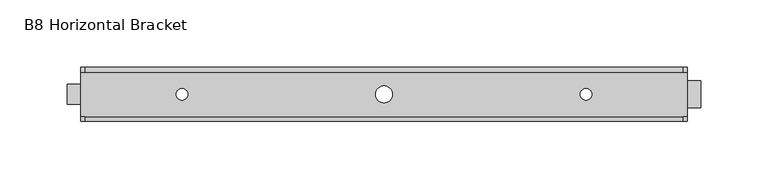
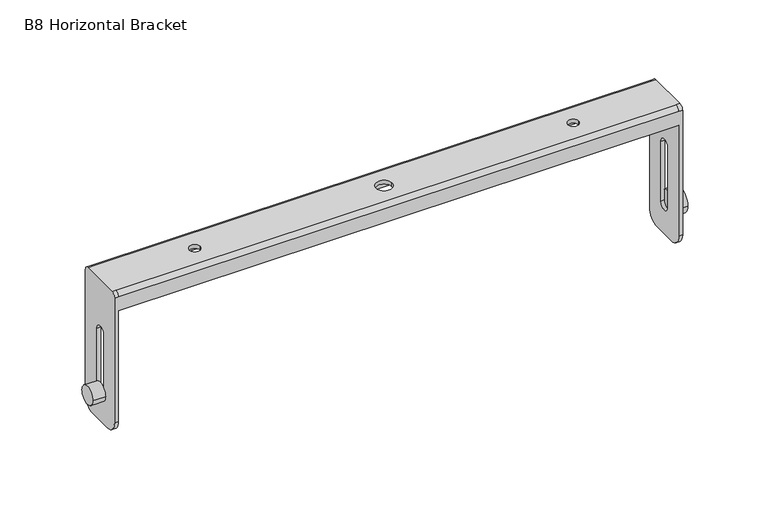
"""IFC4 building model written with IfcOpenShell, lengths in millimetres: proxy geometry, d&b B8 Horizontal Bracket : B8 Horizontal Bracket."""

from ifc_helpers import new_model, si_unit, point, frame, frame_2d, origin, place, context, project, spatial, polyline, circle_curve, trimmed, segment, composite_curve, outline, extrude, source, transform, mapped, element, save
from ifc_brep_helpers import plane_surface, cylinder_surface, revolved_surface, advanced_brep


def b8_horizontal_bracket_c61ec636(model_context):
    return source(origin(), model_context, "Body", "SolidModel", [
        extrude(outline(composite_curve([segment(trimmed(circle_curve(frame_2d((58.7663484, 64.6631951)), 7.5), [point((51.2663484, 64.6631951))], [point((66.2663484, 64.6631951))], False, "CARTESIAN"), True, "CONTINUOUS"), segment(trimmed(circle_curve(frame_2d((58.7663484, 64.6631951)), 7.5), [point((66.2663484, 64.6631951))], [point((51.2663484, 64.6631951))], False, "CARTESIAN"), True, "CONTINUOUS")], self_intersect=False)), frame((-235.0, 0.0, 0.0), z_axis=(1.0, 0.0, 0.0), x_axis=(0.0, 1.0, 0.0)), (0.0, 0.0, 1.0), 10.0),
        extrude(outline(composite_curve([segment(trimmed(circle_curve(frame_2d((58.7663484, 64.6631951)), 10.0), [point((48.7663484, 64.6631951))], [point((68.7663484, 64.6631951))], False, "CARTESIAN"), True, "CONTINUOUS"), segment(trimmed(circle_curve(frame_2d((58.7663484, 64.6631951)), 10.0), [point((68.7663484, 64.6631951))], [point((48.7663484, 64.6631951))], False, "CARTESIAN"), True, "CONTINUOUS")], self_intersect=False)), frame((225.0, 0.0, 0.0), z_axis=(1.0, 0.0, 0.0), x_axis=(0.0, 1.0, 0.0)), (0.0, 0.0, 1.0), 10.0),
        advanced_brep(
        [(-222.0, 38.8007925, 50.0631951), (-222.0, 48.8007925, 40.0631951), (-222.0, 68.8007925, 40.0631951), (-222.0, 78.8007925, 50.0631951), (-222.0, 78.8007925, 143.0631951), (-222.0, 75.8007925, 143.0631951), (-222.0, 75.8007925, 155.0631951), (-222.0, 41.8007925, 155.0631951), (-222.0, 41.8007925, 143.0631951), (-222.0, 38.8007925, 143.0631951), (-222.0, 63.3007925, 64.6631951), (-222.0, 54.3007925, 63.8757971), (-222.0, 54.3007925, 113.8757971), (-222.0, 63.3007925, 114.6631951), (-225.0, 78.8007925, 154.5631951), (-225.0, 78.8007925, 50.0631951), (-225.0, 68.8007925, 40.0631951), (-225.0, 48.8007925, 40.0631951), (-225.0, 38.8007925, 50.0631951), (-225.0, 38.8007925, 154.5631951), (-225.0, 42.3007925, 158.0631951), (-225.0, 75.3007925, 158.0631951), (-225.0, 63.3007925, 64.6631951), (-225.0, 63.3007925, 114.6631951), (-225.0, 54.3007925, 113.8757971), (-225.0, 54.3007925, 63.8757971), (-222.0, 75.3007925, 158.0631951), (-222.0, 78.8007925, 154.5631951), (-222.0, 38.8007925, 154.5631951), (-222.0, 42.3007925, 158.0631951), (225.0, 78.8007925, 154.5631951), (225.0, 75.3007925, 158.0631951), (225.0, 42.3007925, 158.0631951), (225.0, 38.8007925, 154.5631951), (225.0, 38.8007925, 50.0631951), (225.0, 48.8007925, 40.0631951), (225.0, 68.8007925, 40.0631951), (225.0, 78.8007925, 50.0631951), (225.0, 63.3007925, 64.6631951), (225.0, 54.3007925, 63.8757971), (225.0, 54.3007925, 113.8757971), (225.0, 63.3007925, 114.6631951), (222.0, 78.8007925, 50.0631951), (222.0, 68.8007925, 40.0631951), (222.0, 48.8007925, 40.0631951), (222.0, 38.8007925, 50.0631951), (222.0, 38.8007925, 143.0631951), (222.0, 41.8007925, 143.0631951), (222.0, 41.8007925, 155.0631951), (222.0, 75.8007925, 155.0631951), (222.0, 75.8007925, 143.0631951), (222.0, 78.8007925, 143.0631951), (222.0, 63.3007925, 64.6631951), (222.0, 63.3007925, 114.6631951), (222.0, 54.3007925, 113.8757971), (222.0, 54.3007925, 63.8757971), (222.0, 78.8007925, 154.5631951), (222.0, 75.3007925, 158.0631951), (222.0, 42.3007925, 158.0631951), (222.0, 38.8007925, 154.5631951), (-6.2226427, 58.8007925, 158.0631951), (6.2226427, 58.8007925, 158.0631951), (145.7334614, 58.8007925, 158.0631951), (154.2334614, 58.8007925, 158.0631951), (-154.2334614, 58.8007925, 158.0631951), (-145.7334614, 58.8007925, 158.0631951), (-6.2226427, 58.8007925, 155.0631951), (6.2226427, 58.8007925, 155.0631951), (145.7334614, 58.8007925, 155.0631951), (154.2334614, 58.8007925, 155.0631951), (-154.2334614, 58.8007925, 155.0631951), (-145.7334614, 58.8007925, 155.0631951)],
        [
            (0, 1, circle_curve(frame((-222.0, 48.8007925, 50.0631951), z_axis=(1.0, 0.0, 0.0), x_axis=(0.0, 1.0, 0.0)), 10.0)),
            (1, 2),
            (2, 3, circle_curve(frame((-222.0, 68.8007925, 50.0631951), z_axis=(1.0, 0.0, 0.0), x_axis=(0.0, 1.0, 0.0)), 10.0)),
            (3, 4),
            (4, 5),
            (5, 6),
            (6, 7),
            (7, 8),
            (8, 9),
            (9, 0),
            (10, 11, circle_curve(frame((-222.0, 58.7663484, 64.6631951), z_axis=(-1.0, 0.0, 0.0), x_axis=(0.0, 1.0, 0.0)), 4.5344442)),
            (11, 12),
            (12, 13, circle_curve(frame((-222.0, 58.7663484, 114.6631951), z_axis=(-1.0, 0.0, 0.0), x_axis=(0.0, 1.0, 0.0)), 4.5344442)),
            (13, 10),
            (14, 15),
            (15, 16, circle_curve(frame((-225.0, 68.8007925, 50.0631951), z_axis=(-1.0, 0.0, 0.0), x_axis=(0.0, 1.0, 0.0)), 10.0)),
            (16, 17),
            (17, 18, circle_curve(frame((-225.0, 48.8007925, 50.0631951), z_axis=(-1.0, 0.0, 0.0), x_axis=(0.0, 1.0, 0.0)), 10.0)),
            (18, 19),
            (19, 20, circle_curve(frame((-225.0, 42.3007925, 154.5631951), z_axis=(-1.0, 0.0, 0.0), x_axis=(0.0, 1.0, 0.0)), 3.5)),
            (20, 21),
            (21, 14, circle_curve(frame((-225.0, 75.3007925, 154.5631951), z_axis=(-1.0, 0.0, 0.0), x_axis=(0.0, 1.0, 0.0)), 3.5)),
            (22, 23),
            (23, 24, circle_curve(frame((-225.0, 58.7663484, 114.6631951), z_axis=(1.0, 0.0, 0.0), x_axis=(0.0, 1.0, 0.0)), 4.5344442)),
            (24, 25),
            (25, 22, circle_curve(frame((-225.0, 58.7663484, 64.6631951), z_axis=(1.0, 0.0, 0.0), x_axis=(0.0, 1.0, 0.0)), 4.5344442)),
            (21, 26),
            (26, 27, circle_curve(frame((-222.0, 75.3007925, 154.5631951), z_axis=(-1.0, 0.0, 0.0), x_axis=(0.0, 1.0, 0.0)), 3.5)),
            (27, 14),
            (19, 28),
            (28, 29, circle_curve(frame((-222.0, 42.3007925, 154.5631951), z_axis=(-1.0, 0.0, 0.0), x_axis=(0.0, 1.0, 0.0)), 3.5)),
            (29, 20),
            (0, 18),
            (17, 1),
            (16, 2),
            (15, 3),
            (10, 22),
            (25, 11),
            (24, 12),
            (23, 13),
            (30, 31, circle_curve(frame((225.0, 75.3007925, 154.5631951), z_axis=(1.0, 0.0, 0.0), x_axis=(0.0, 1.0, 0.0)), 3.5)),
            (31, 32),
            (32, 33, circle_curve(frame((225.0, 42.3007925, 154.5631951), z_axis=(1.0, 0.0, 0.0), x_axis=(0.0, 1.0, 0.0)), 3.5)),
            (33, 34),
            (34, 35, circle_curve(frame((225.0, 48.8007925, 50.0631951), z_axis=(1.0, 0.0, 0.0), x_axis=(0.0, 1.0, 0.0)), 10.0)),
            (35, 36),
            (36, 37, circle_curve(frame((225.0, 68.8007925, 50.0631951), z_axis=(1.0, 0.0, 0.0), x_axis=(0.0, 1.0, 0.0)), 10.0)),
            (37, 30),
            (38, 39, circle_curve(frame((225.0, 58.7663484, 64.6631951), z_axis=(-1.0, 0.0, 0.0), x_axis=(0.0, 1.0, 0.0)), 4.5344442)),
            (39, 40),
            (40, 41, circle_curve(frame((225.0, 58.7663484, 114.6631951), z_axis=(-1.0, 0.0, 0.0), x_axis=(0.0, 1.0, 0.0)), 4.5344442)),
            (41, 38),
            (42, 43, circle_curve(frame((222.0, 68.8007925, 50.0631951), z_axis=(-1.0, 0.0, 0.0), x_axis=(0.0, 1.0, 0.0)), 10.0)),
            (43, 44),
            (44, 45, circle_curve(frame((222.0, 48.8007925, 50.0631951), z_axis=(-1.0, 0.0, 0.0), x_axis=(0.0, 1.0, 0.0)), 10.0)),
            (45, 46),
            (46, 47),
            (47, 48),
            (48, 49),
            (49, 50),
            (50, 51),
            (51, 42),
            (52, 53),
            (53, 54, circle_curve(frame((222.0, 58.7663484, 114.6631951), z_axis=(1.0, 0.0, 0.0), x_axis=(0.0, 1.0, 0.0)), 4.5344442)),
            (54, 55),
            (55, 52, circle_curve(frame((222.0, 58.7663484, 64.6631951), z_axis=(1.0, 0.0, 0.0), x_axis=(0.0, 1.0, 0.0)), 4.5344442)),
            (30, 56),
            (56, 57, circle_curve(frame((222.0, 75.3007925, 154.5631951), z_axis=(1.0, 0.0, 0.0), x_axis=(0.0, 1.0, 0.0)), 3.5)),
            (57, 31),
            (32, 58),
            (58, 59, circle_curve(frame((222.0, 42.3007925, 154.5631951), z_axis=(1.0, 0.0, 0.0), x_axis=(0.0, 1.0, 0.0)), 3.5)),
            (59, 33),
            (34, 45),
            (44, 35),
            (43, 36),
            (42, 37),
            (38, 52),
            (55, 39),
            (54, 40),
            (53, 41),
            (51, 4),
            (27, 56),
            (26, 57),
            (29, 58),
            (60, 61, circle_curve(frame((0.0, 58.8007925, 158.0631951), z_axis=(0.0, 0.0, -1.0), x_axis=(1.0, 0.0, 0.0)), 6.2226427)),
            (61, 60, circle_curve(frame((0.0, 58.8007925, 158.0631951), z_axis=(0.0, 0.0, -1.0), x_axis=(1.0, 0.0, 0.0)), 6.2226427)),
            (62, 63, circle_curve(frame((149.9834614, 58.8007925, 158.0631951), z_axis=(0.0, 0.0, -1.0), x_axis=(1.0, 0.0, 0.0)), 4.25)),
            (63, 62, circle_curve(frame((149.9834614, 58.8007925, 158.0631951), z_axis=(0.0, 0.0, -1.0), x_axis=(1.0, 0.0, 0.0)), 4.25)),
            (64, 65, circle_curve(frame((-149.9834614, 58.8007925, 158.0631951), z_axis=(0.0, 0.0, -1.0), x_axis=(1.0, 0.0, 0.0)), 4.25)),
            (65, 64, circle_curve(frame((-149.9834614, 58.8007925, 158.0631951), z_axis=(0.0, 0.0, -1.0), x_axis=(1.0, 0.0, 0.0)), 4.25)),
            (6, 49),
            (48, 7),
            (66, 67, circle_curve(frame((0.0, 58.8007925, 155.0631951), z_axis=(0.0, 0.0, 1.0), x_axis=(1.0, 0.0, 0.0)), 6.2226427)),
            (67, 66, circle_curve(frame((0.0, 58.8007925, 155.0631951), z_axis=(0.0, 0.0, 1.0), x_axis=(1.0, 0.0, 0.0)), 6.2226427)),
            (68, 69, circle_curve(frame((149.9834614, 58.8007925, 155.0631951), z_axis=(0.0, 0.0, 1.0), x_axis=(1.0, 0.0, 0.0)), 4.25)),
            (69, 68, circle_curve(frame((149.9834614, 58.8007925, 155.0631951), z_axis=(0.0, 0.0, 1.0), x_axis=(1.0, 0.0, 0.0)), 4.25)),
            (70, 71, circle_curve(frame((-149.9834614, 58.8007925, 155.0631951), z_axis=(0.0, 0.0, 1.0), x_axis=(1.0, 0.0, 0.0)), 4.25)),
            (71, 70, circle_curve(frame((-149.9834614, 58.8007925, 155.0631951), z_axis=(0.0, 0.0, 1.0), x_axis=(1.0, 0.0, 0.0)), 4.25)),
            (5, 50),
            (46, 9),
            (8, 47),
            (28, 59),
            (66, 60),
            (61, 67),
            (68, 62),
            (63, 69),
            (70, 64),
            (65, 71),
        ],
        [
            plane_surface(frame((-222.0, 78.8007925, 154.5631951), z_axis=(1.0, 0.0, 0.0), x_axis=(0.0, 0.0, 1.0))),
            plane_surface(frame((-225.0, 78.8007925, 154.5631951), z_axis=(-1.0, 0.0, 0.0), x_axis=(0.0, 0.0, -1.0))),
            cylinder_surface(frame((-225.0, 75.3007925, 154.5631951), z_axis=(1.0, 0.0, 0.0), x_axis=(0.0, 1.0, 0.0)), 3.5),
            cylinder_surface(frame((-225.0, 42.3007925, 154.5631951), z_axis=(1.0, 0.0, 0.0), x_axis=(0.0, 1.0, 0.0)), 3.5),
            cylinder_surface(frame((-225.0, 48.8007925, 50.0631951), z_axis=(1.0, 0.0, 0.0), x_axis=(0.0, 1.0, 0.0)), 10.0),
            plane_surface(frame((-222.0, 48.8007925, 40.0631951), z_axis=(0.0, 0.0, -1.0), x_axis=(-1.0, 0.0, 0.0))),
            cylinder_surface(frame((-225.0, 68.8007925, 50.0631951), z_axis=(1.0, 0.0, 0.0), x_axis=(0.0, 1.0, 0.0)), 10.0),
            revolved_surface(polyline([(-225.0, 63.3007926, 64.6631951), (-222.0, 63.3007926, 64.6631951)]), (27.1058086, 58.7663484, 64.6631951), (-1.0, 0.0, 0.0)),
            plane_surface(frame((-222.0, 54.3007925, 63.8757971), z_axis=(0.0, 1.0, 0.0), x_axis=(-1.0, 0.0, 0.0))),
            revolved_surface(polyline([(-225.0, 63.3007926, 114.6631951), (-222.0, 63.3007926, 114.6631951)]), (27.1058086, 58.7663484, 114.6631951), (-1.0, 0.0, 0.0)),
            plane_surface(frame((-222.0, 63.3007925, 114.6631951), z_axis=(0.0, -1.0, 0.0), x_axis=(-1.0, 0.0, 0.0))),
            plane_surface(frame((225.0, 78.8007925, 154.5631951), z_axis=(1.0, 0.0, 0.0), x_axis=(0.0, 0.0, 1.0))),
            plane_surface(frame((222.0, 78.8007925, 154.5631951), z_axis=(-1.0, 0.0, 0.0), x_axis=(0.0, 0.0, -1.0))),
            cylinder_surface(frame((222.0, 75.3007925, 154.5631951), z_axis=(1.0, 0.0, 0.0), x_axis=(0.0, 1.0, 0.0)), 3.5),
            cylinder_surface(frame((222.0, 42.3007925, 154.5631951), z_axis=(1.0, 0.0, 0.0), x_axis=(0.0, 1.0, 0.0)), 3.5),
            cylinder_surface(frame((222.0, 48.8007925, 50.0631951), z_axis=(1.0, 0.0, 0.0), x_axis=(0.0, 1.0, 0.0)), 10.0),
            plane_surface(frame((225.0, 48.8007925, 40.0631951), z_axis=(0.0, 0.0, -1.0), x_axis=(-1.0, 0.0, 0.0))),
            cylinder_surface(frame((222.0, 68.8007925, 50.0631951), z_axis=(1.0, 0.0, 0.0), x_axis=(0.0, 1.0, 0.0)), 10.0),
            revolved_surface(polyline([(222.0, 63.3007926, 64.6631951), (225.0, 63.3007926, 64.6631951)]), (27.1058086, 58.7663484, 64.6631951), (-1.0, 0.0, 0.0)),
            plane_surface(frame((225.0, 54.3007925, 63.8757971), z_axis=(0.0, 1.0, 0.0), x_axis=(-1.0, 0.0, 0.0))),
            revolved_surface(polyline([(222.0, 63.3007926, 114.6631951), (225.0, 63.3007926, 114.6631951)]), (27.1058086, 58.7663484, 114.6631951), (-1.0, 0.0, 0.0)),
            plane_surface(frame((225.0, 63.3007925, 114.6631951), z_axis=(0.0, -1.0, 0.0), x_axis=(-1.0, 0.0, 0.0))),
            plane_surface(frame((222.0, 78.8007925, 143.0631951), z_axis=(0.0, 1.0, 0.0), x_axis=(-1.0, 0.0, 0.0))),
            cylinder_surface(frame((-222.0, 75.3007925, 154.5631951), z_axis=(1.0, 0.0, 0.0), x_axis=(0.0, 1.0, 0.0)), 3.5),
            plane_surface(frame((222.0, 75.3007925, 158.0631951), z_axis=(0.0, 0.0, 1.0), x_axis=(-1.0, 0.0, 0.0))),
            plane_surface(frame((222.0, 73.8474779, 155.0631951), z_axis=(0.0, 0.0, -1.0), x_axis=(-1.0, 0.0, 0.0))),
            plane_surface(frame((222.0, 75.8007925, 155.0631951), z_axis=(0.0, -1.0, 0.0), x_axis=(-1.0, 0.0, 0.0))),
            plane_surface(frame((222.0, 75.8007925, 143.0631951), z_axis=(0.0, 0.0, -1.0), x_axis=(-1.0, 0.0, 0.0))),
            plane_surface(frame((222.0, 38.8007925, 143.0631951), z_axis=(0.0, 0.0, -1.0), x_axis=(-1.0, 0.0, 0.0))),
            plane_surface(frame((222.0, 41.8007925, 143.0631951), z_axis=(0.0, 1.0, 0.0), x_axis=(-1.0, 0.0, 0.0))),
            cylinder_surface(frame((27.1058086, 42.3007925, 154.5631951), z_axis=(1.0, 0.0, 0.0), x_axis=(0.0, 1.0, 0.0)), 3.5),
            plane_surface(frame((222.0, 38.8007925, 154.5631951), z_axis=(0.0, -1.0, 0.0), x_axis=(-1.0, 0.0, 0.0))),
            revolved_surface(polyline([(6.2226427, 58.8007925, 158.0631951), (6.2226427, 58.8007925, 155.0631951)]), (0.0, 58.8007925, 64.6631951), (0.0, 0.0, 1.0)),
            revolved_surface(polyline([(154.2334614, 58.8007925, 158.0631951), (154.2334614, 58.8007925, 155.0631951)]), (149.9834614, 58.8007925, 64.6631951), (0.0, 0.0, 1.0)),
            revolved_surface(polyline([(-145.7334614, 58.8007925, 158.0631951), (-145.7334614, 58.8007925, 155.0631951)]), (-149.9834614, 58.8007925, 64.6631951), (0.0, 0.0, 1.0)),
        ],
        [
            (0, [[1, 2, 3, 4, 5, 6, 7, 8, 9, 10], [11, 12, 13, 14]]),
            (1, [[15, 16, 17, 18, 19, 20, 21, 22], [23, 24, 25, 26]]),
            (2, [[-22, 27, 28, 29]]),
            (3, [[-20, 30, 31, 32]]),
            (4, [[-1, 33, -18, 34]]),
            (5, [[-2, -34, -17, 35]]),
            (6, [[-3, -35, -16, 36]]),
            (7, [[-11, 37, -26, 38]]),
            (8, [[-12, -38, -25, 39]]),
            (9, [[-13, -39, -24, 40]]),
            (10, [[-14, -40, -23, -37]]),
            (11, [[41, 42, 43, 44, 45, 46, 47, 48], [49, 50, 51, 52]]),
            (12, [[53, 54, 55, 56, 57, 58, 59, 60, 61, 62], [63, 64, 65, 66]]),
            (13, [[-41, 67, 68, 69]]),
            (14, [[-43, 70, 71, 72]]),
            (15, [[-45, 73, -55, 74]]),
            (16, [[-46, -74, -54, 75]]),
            (17, [[-47, -75, -53, 76]]),
            (18, [[-49, 77, -66, 78]]),
            (19, [[-50, -78, -65, 79]]),
            (20, [[-51, -79, -64, 80]]),
            (21, [[-52, -80, -63, -77]]),
            (22, [[81, -4, -36, -15, -29, 82, -67, -48, -76, -62]]),
            (23, [[-82, -28, 83, -68]]),
            (24, [[-83, -27, -21, -32, 84, -70, -42, -69], [85, 86], [87, 88], [89, 90]]),
            (25, [[91, -59, 92, -7], [93, 94], [95, 96], [97, 98]]),
            (26, [[-91, -6, 99, -60]]),
            (27, [[-81, -61, -99, -5]]),
            (28, [[100, -9, 101, -57]]),
            (29, [[-101, -8, -92, -58]]),
            (30, [[-84, -31, 102, -71]]),
            (31, [[-100, -56, -73, -44, -72, -102, -30, -19, -33, -10]]),
            (32, [[-93, 103, -86, 104]]),
            (32, [[-94, -104, -85, -103]]),
            (33, [[-95, 105, -88, 106]]),
            (33, [[-96, -106, -87, -105]]),
            (34, [[-97, 107, -90, 108]]),
            (34, [[-98, -108, -89, -107]]),
        ],
    ),
    ])


if __name__ == "__main__":
    model = new_model("IFC4")
    model_context = context("Model", 3, world=origin())
    ifc_project = project(units=[si_unit("LENGTHUNIT", "METRE", prefix="MILLI")], contexts=[model_context])
    site = spatial("IfcSite", under=ifc_project)
    building = spatial("IfcBuilding", under=site)
    placement = place(None, origin())
    b8_horizontal_bracket_shape = b8_horizontal_bracket_c61ec636(model_context)
    element("IfcBuildingElementProxy", 1, Name="d&b B8 Horizontal Bracket : B8 Horizontal Bracket", ObjectType="d&b B8 Horizontal Bracket : B8 Horizontal Bracket", at=placement, inside=building, context=model_context, shape_type="MappedRepresentation", body=[
        mapped(b8_horizontal_bracket_shape, transform((0.0, 0.0, 0.0), x_axis=(1.0, 0.0, 0.0), y_axis=(0.0, 1.0, 0.0), z_axis=(0.0, 0.0, 1.0))),
    ])
    save(model, "model.ifc")
